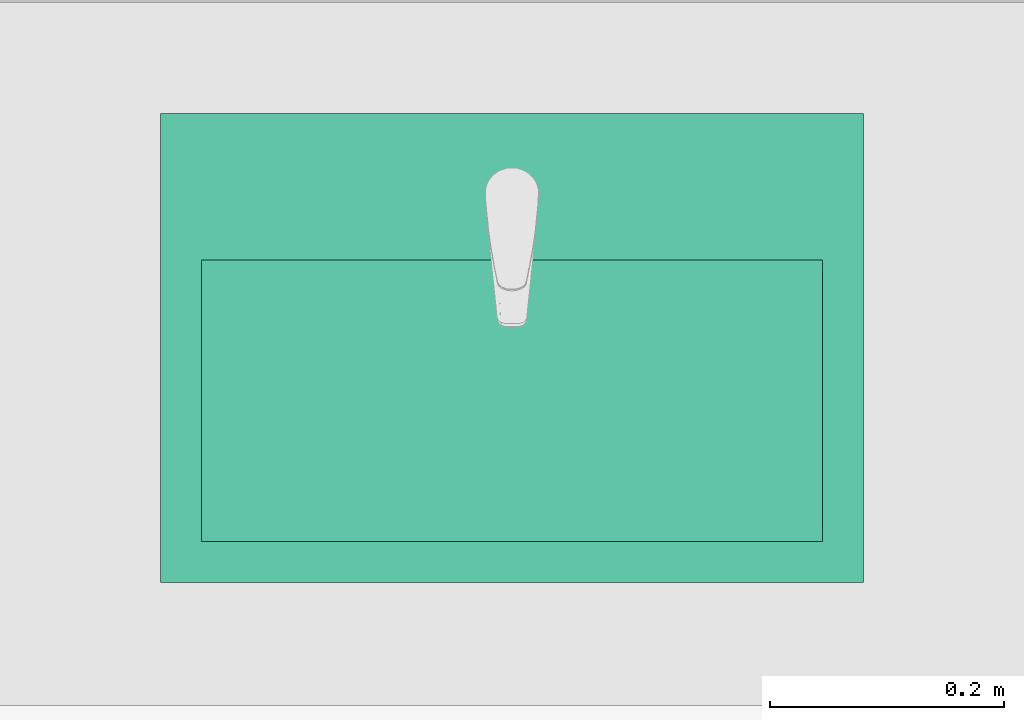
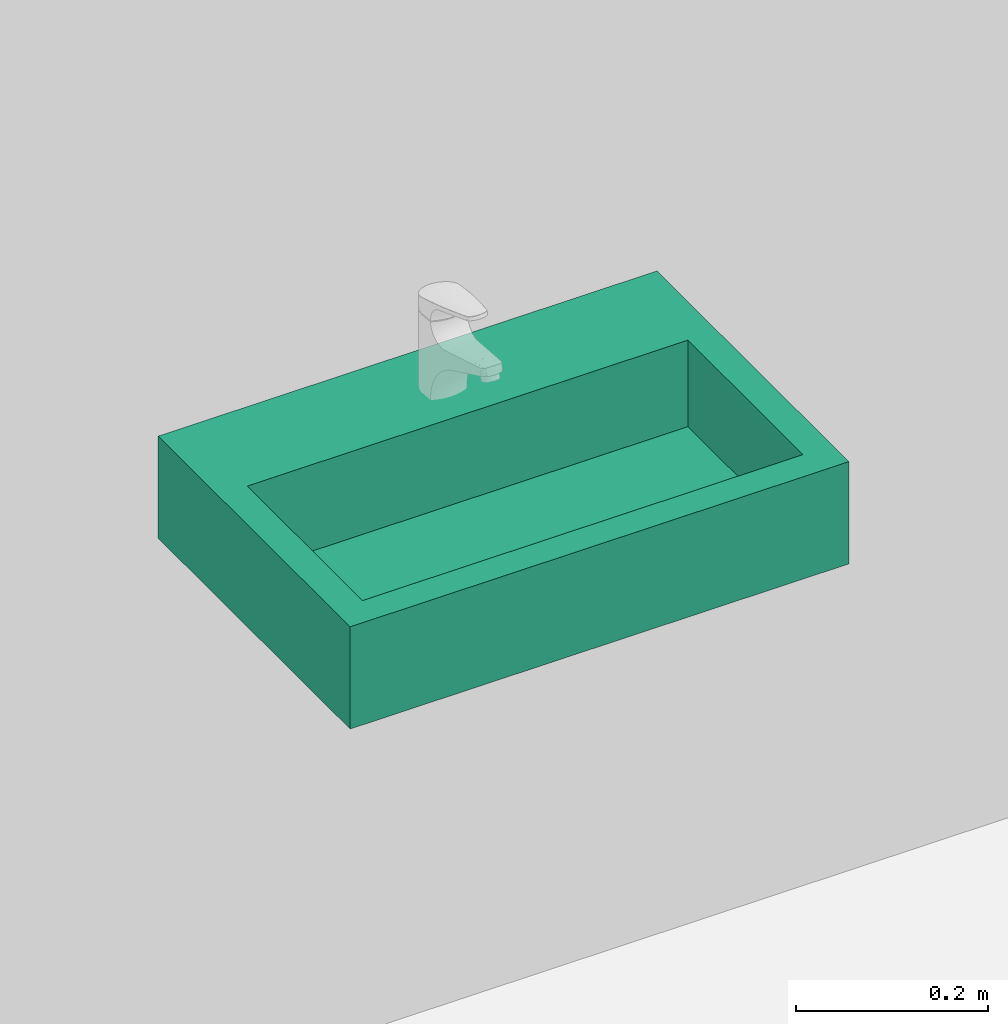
# One storey, part 55 of 125: 1 flow terminal.
"""IFC2X3 building model written with IfcOpenShell, lengths in millimetres."""

from ifc_helpers import new_model, entity, si_unit, converted_unit, direction, frame, origin, place, context, subcontext, project, spatial, faceted_brep, source, transform, mapped, material, type_object, type_shapes, element, save


model = new_model("IFC2X3")

# Units and contexts
model_context = context("Model", 3, precision=0.01, world=origin(), true_north=direction((6.123233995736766e-17, 1.0)))
plan_context = context("Plan", 3, precision=0.01, world=origin(), true_north=direction((6.123233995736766e-17, 1.0)))
body_context = subcontext(model_context, "Body", "Model", "MODEL_VIEW")
ifc_project = project(units=[si_unit("LENGTHUNIT", "METRE", prefix="MILLI"), converted_unit("PLANEANGLEUNIT", "DEGREE", entity("IfcPlaneAngleMeasure", 0.017453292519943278), si_unit("PLANEANGLEUNIT", "RADIAN"), dimensions=[0, 0, 0, 0, 0, 0, 0]), si_unit("AREAUNIT", "SQUARE_METRE")], contexts=[model_context, plan_context])

# Site, building, storey, space
site_placement = place(None, origin())
site = spatial("IfcSite", under=ifc_project, at=site_placement, Name="Default", CompositionType="ELEMENT")
building_placement = place(site_placement, origin())
building = spatial("IfcBuilding", under=site, at=building_placement, CompositionType="ELEMENT")
storey_placement = place(building_placement, frame((0.0, 0.0, 3125.0)))
storey = spatial("IfcBuildingStorey", under=building, at=storey_placement, Name="2K", CompositionType="ELEMENT", Elevation=3125.0)
space_placement = place(storey_placement, origin())
space = spatial("IfcSpace", under=storey, at=space_placement, Name="2-4.6", CompositionType="ELEMENT", InteriorOrExteriorSpace="INTERNAL")

# Flow terminal
ifc_material = material(Name="<Unnamed>")
distribution_element_type = type_object("IfcDistributionElementType", Name="HR_Plumbing-fixtures_Sink_Generic_Bathroom_v1:600 x 400 mm", material=ifc_material)
shared_shape = source(origin(), body_context, "Body", "Brep", [
    faceted_brep([(300.0, 0.0, 0.0), (-300.0, 0.0, 0.0), (-300.0, -400.0, 0.0), (300.0, -400.0, 0.0), (-265.0, -125.0, 0.0), (265.0, -125.0, 0.0), (265.0, -365.0, 0.0), (-265.0, -365.0, 0.0), (300.0, 0.0, -130.0), (300.0, -400.0, -130.0), (-300.0, -400.0, -130.0), (-300.0, 0.0, -130.0), (265.0, -125.0, -110.0), (-265.0, -125.0, -110.0), (-265.0, -365.0, -110.0), (265.0, -365.0, -110.0)], [[[0, 1, 2, 3], [4, 5, 6, 7]], [[8, 9, 10, 11]], [[1, 0, 8, 11]], [[2, 1, 11, 10]], [[3, 2, 10, 9]], [[0, 3, 9, 8]], [[12, 13, 14, 15]], [[13, 12, 5, 4]], [[14, 13, 4, 7]], [[15, 14, 7, 6]], [[12, 15, 6, 5]]]),
])
type_shapes(distribution_element_type, [shared_shape])
flow_terminal_placement = place(space_placement, frame((10841.496767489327, 6305.000000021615, 900.0)))
element("IfcFlowTerminal", 1, at=flow_terminal_placement, inside=space, type_object=distribution_element_type, material=ifc_material, Name="HR_Plumbing-fixtures_Sink_Generic_Bathroom_v1:600 x 400 mm", ObjectType="HR_Plumbing-fixtures_Sink_Generic_Bathroom_v1:600 x 400 mm", context=body_context, shape_type="MappedRepresentation", body=[
    mapped(shared_shape, transform((0.0, 0.0, 0.0), scale=1.0)),
])

save(model, "model.ifc")
